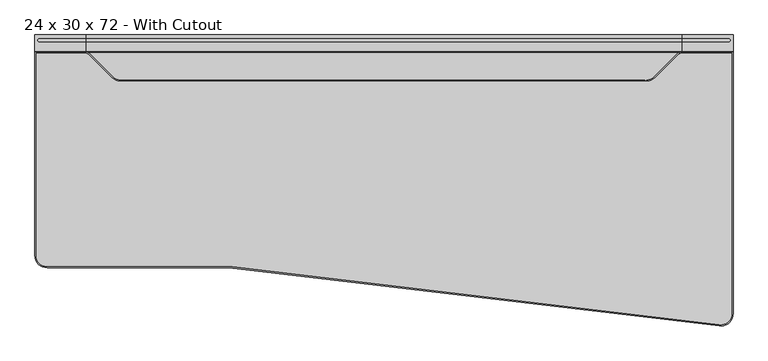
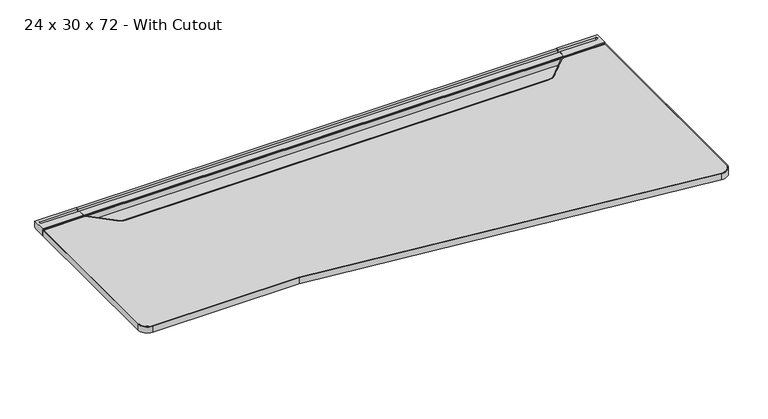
"""IFC4 building model written with IfcOpenShell, lengths in millimetres: furniture geometry, Steelcase - C Scape - Desking - Right Hand Transition - Non Sliding : 24 x 30 x 72 - With Cutout."""

from ifc_helpers import new_model, si_unit, point, frame, frame_2d, origin, place, context, project, spatial, polyline, circle_curve, trimmed, segment, composite_curve, outline, extrude, faceted_brep, source, transform, mapped, element, save
from ifc_brep_helpers import plane_surface, cylinder_surface, revolved_surface, advanced_brep


def furniture_24_x_30_x_72_with_cutout_818d5d7e(model_context):
    return source(origin(), model_context, "Body", "SolidModel", [
        advanced_brep(
        [(1695.7802124, -45.3135132, 703.3768), (1695.7802124, -45.3135132, 722.4268341), (1695.7802124, -42.7750923, 722.4268341), (1695.7802124, -42.7750923, 725.932), (1695.7802124, -19.3290527, 725.932), (1695.7802124, -19.3290527, 713.486), (1695.7802124, -8.5111084, 713.486), (1695.7802124, -8.5111084, 725.932), (1695.7802124, 0.0, 725.932), (1695.7802124, 0.0, 705.1038636), (1695.7802124, -3.2278472, 705.1038636), (1695.7802124, -4.0331902, 703.3768), (1828.8, -45.3135132, 703.3768), (1828.8, -4.0331902, 703.3768), (1828.8, -3.2278472, 705.1038636), (1828.8, 0.0, 705.1038636), (1828.8, 0.0, 725.932), (1828.8, -42.7750923, 725.932), (1828.8, -42.7750923, 722.4268341), (1828.8, -45.3135132, 722.4268341), (1817.0379272, -8.5111084, 725.932), (1817.0379272, -19.3290527, 725.932), (1817.0379272, -19.3290527, 713.486), (1817.0379272, -8.5111084, 713.486)],
        [
            (0, 1),
            (1, 2),
            (2, 3),
            (3, 4),
            (4, 5),
            (5, 6),
            (6, 7),
            (7, 8),
            (8, 9),
            (9, 10),
            (10, 11),
            (11, 0),
            (12, 13),
            (13, 14),
            (14, 15),
            (15, 16),
            (16, 17),
            (17, 18),
            (18, 19),
            (19, 12),
            (11, 13),
            (12, 0),
            (10, 14),
            (9, 15),
            (8, 16),
            (7, 20),
            (20, 21, circle_curve(frame((1817.0379272, -13.9200806, 725.932), z_axis=(0.0, 0.0, -1.0), x_axis=(-1.0, 0.0, 0.0)), 5.4089722)),
            (21, 4),
            (3, 17),
            (2, 18),
            (1, 19),
            (5, 22),
            (22, 23, circle_curve(frame((1817.0379272, -13.9200806, 713.486), z_axis=(0.0, 0.0, 1.0), x_axis=(-1.0, 0.0, 0.0)), 5.4089722)),
            (23, 6),
            (23, 20),
            (22, 21),
        ],
        [
            plane_surface(frame((1695.7802124, -45.3135132, 703.3768), z_axis=(-1.0, 0.0, 0.0), x_axis=(0.0, 1.0, 0.0))),
            plane_surface(frame((1828.8, -45.3135132, 703.3768), z_axis=(1.0, 0.0, 0.0), x_axis=(0.0, -1.0, 0.0))),
            plane_surface(frame((1695.7802124, -45.3135132, 703.3768), z_axis=(0.0, 0.0, -1.0), x_axis=(1.0, 0.0, 0.0))),
            plane_surface(frame((1695.7802124, -4.0331902, 703.3768), z_axis=(0.0, 0.9063077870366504, -0.4226182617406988), x_axis=(1.0, 0.0, 0.0))),
            plane_surface(frame((1695.7802124, -3.2278472, 705.1038636), z_axis=(0.0, 0.0, -1.0), x_axis=(1.0, 0.0, 0.0))),
            plane_surface(frame((1695.7802124, 0.0, 705.1038636), z_axis=(0.0, 1.0, 0.0), x_axis=(1.0, 0.0, 0.0))),
            plane_surface(frame((1695.7802124, 0.0, 725.932), z_axis=(0.0, 0.0, 1.0), x_axis=(1.0, 0.0, 0.0))),
            plane_surface(frame((1695.7802124, -42.7750923, 725.932), z_axis=(0.0, -1.0, 0.0), x_axis=(1.0, 0.0, 0.0))),
            plane_surface(frame((1695.7802124, -42.7750923, 722.4268341), z_axis=(0.0, 0.0, 1.0), x_axis=(1.0, 0.0, 0.0))),
            plane_surface(frame((1695.7802124, -45.3135132, 722.4268341), z_axis=(0.0, -1.0, 0.0), x_axis=(1.0, 0.0, 0.0))),
            plane_surface(frame((1817.0379272, -8.5111084, 713.486), z_axis=(0.0, 0.0, 1.0), x_axis=(-1.0, 0.0, 0.0))),
            plane_surface(frame((1695.7802124, -8.5111084, 731.2180541), z_axis=(0.0, -1.0, 0.0), x_axis=(0.0, 0.0, -1.0))),
            revolved_surface(polyline([(1811.628955, -13.9200806, 725.932), (1811.628955, -13.9200806, 713.486)]), (1817.0379272, -13.9200806, 713.486), (0.0, 0.0, 1.0)),
            plane_surface(frame((1817.0379272, -19.3290527, 731.2180541), z_axis=(0.0, 1.0, 0.0), x_axis=(0.0, 0.0, -1.0))),
        ],
        [
            (0, [[1, 2, 3, 4, 5, 6, 7, 8, 9, 10, 11, 12]]),
            (1, [[13, 14, 15, 16, 17, 18, 19, 20]]),
            (2, [[21, -13, 22, -12]]),
            (3, [[23, -14, -21, -11]]),
            (4, [[24, -15, -23, -10]]),
            (5, [[25, -16, -24, -9]]),
            (6, [[-25, -8, 26, 27, 28, -4, 29, -17]]),
            (7, [[30, -18, -29, -3]]),
            (8, [[31, -19, -30, -2]]),
            (9, [[-22, -20, -31, -1]]),
            (10, [[-6, 32, 33, 34]]),
            (11, [[35, -26, -7, -34]]),
            (12, [[36, -27, -35, -33]]),
            (13, [[-5, -28, -36, -32]]),
        ],
    ),
        faceted_brep([(1809.7492368, -565.0752923, 700.7093833), (1809.7492368, -565.0752923, 703.3768), (1695.7802124, -565.0752923, 703.3768), (1695.7802124, -565.0752923, 679.3263935), (1711.4143699, -565.0752923, 679.3263935), (1714.0349121, -565.0752923, 693.4200291), (1795.4741272, -565.0752923, 693.4200291), (1809.7492368, -4.0331902, 700.7093833), (1795.4741272, -4.0331902, 693.4200291), (1714.0349121, -4.0331902, 693.4200291), (1702.1286653, -4.0331902, 629.3866), (1695.7802124, -4.0331902, 629.3866), (1695.7802124, -4.0331902, 703.3768), (1809.7492368, -4.0331902, 703.3768), (1709.2490949, -376.5599397, 667.6812472), (1702.1286653, -364.1172546, 629.3866), (1695.7802124, -364.1172546, 629.3866), (1695.7802124, -376.5599397, 667.6812472)], [[[0, 1, 2, 3, 4, 5, 6]], [[7, 8, 9, 10, 11, 12, 13]], [[6, 8, 7, 0]], [[5, 9, 8, 6]], [[9, 5, 4, 14, 15, 10]], [[10, 15, 16, 11]], [[11, 16, 17, 3, 2, 12]], [[1, 13, 12, 2]], [[0, 7, 13, 1]], [[14, 4, 3, 17]], [[17, 16, 15, 14]]]),
        extrude(outline(composite_curve([segment(polyline([(-293.5216187, 657.3775839), (-559.0022133, 680.1371551)]), True, "CONTINUOUS"), segment(trimmed(circle_curve(frame_2d((-558.7581271, 682.9843154)), 2.8576039), [point((-559.0022133, 680.1371551))], [point((-561.5383043, 682.3236226))], False, "CARTESIAN"), True, "CONTINUOUS"), segment(polyline([(-561.5383043, 682.3236226), (-566.0887542, 701.4717905), (-557.8334441, 701.4717905), (-557.8334441, 703.3768), (-442.6683806, 703.3768), (-442.6683806, 696.3917953), (-318.2108611, 696.3917953), (-318.2108611, 703.3768), (-293.5216187, 703.3768), (-293.5216187, 657.3775839)]), True, "CONTINUOUS")], self_intersect=False)), frame((877.824, 0.0, 0.0), z_axis=(1.0, 0.0, 0.0), x_axis=(0.0, 1.0, 0.0)), (0.0, 0.0, 1.0), 73.152),
        advanced_brep(
        [(133.0197876, -45.3135132, 703.3768), (133.0197876, -4.0331902, 703.3768), (133.0197876, -3.2278472, 705.1038636), (133.0197876, 0.0, 705.1038636), (133.0197876, 0.0, 725.932), (133.0197876, -8.5111084, 725.932), (133.0197876, -8.5111084, 713.486), (133.0197876, -19.3290527, 713.486), (133.0197876, -19.3290527, 725.932), (133.0197876, -42.7750923, 725.932), (133.0197876, -42.7750923, 722.4268341), (133.0197876, -45.3135132, 722.4268341), (0.0, -45.3135132, 703.3768), (0.0, -45.3135132, 722.4268341), (0.0, -42.7750923, 722.4268341), (0.0, -42.7750923, 725.932), (0.0, 0.0, 725.932), (0.0, 0.0, 705.1038636), (0.0, -3.2278472, 705.1038636), (0.0, -4.0331902, 703.3768), (11.7620728, -19.3290527, 725.932), (11.7620728, -8.5111084, 725.932), (11.7620728, -8.5111084, 713.486), (11.7620728, -19.3290527, 713.486)],
        [
            (0, 1),
            (1, 2),
            (2, 3),
            (3, 4),
            (4, 5),
            (5, 6),
            (6, 7),
            (7, 8),
            (8, 9),
            (9, 10),
            (10, 11),
            (11, 0),
            (12, 13),
            (13, 14),
            (14, 15),
            (15, 16),
            (16, 17),
            (17, 18),
            (18, 19),
            (19, 12),
            (0, 12),
            (19, 1),
            (18, 2),
            (17, 3),
            (16, 4),
            (15, 9),
            (8, 20),
            (20, 21, circle_curve(frame((11.7620728, -13.9200806, 725.932), z_axis=(0.0, 0.0, -1.0), x_axis=(1.0, 0.0, 0.0)), 5.4089722)),
            (21, 5),
            (14, 10),
            (13, 11),
            (6, 22),
            (22, 23, circle_curve(frame((11.7620728, -13.9200806, 713.486), z_axis=(0.0, 0.0, 1.0), x_axis=(1.0, 0.0, 0.0)), 5.4089722)),
            (23, 7),
            (21, 22),
            (20, 23),
        ],
        [
            plane_surface(frame((133.0197876, -45.3135132, 703.3768), z_axis=(1.0, 0.0, 0.0), x_axis=(0.0, 1.0, 0.0))),
            plane_surface(frame((0.0, -45.3135132, 703.3768), z_axis=(-1.0, 0.0, 0.0), x_axis=(0.0, -1.0, 0.0))),
            plane_surface(frame((133.0197876, -45.3135132, 703.3768), z_axis=(0.0, 0.0, -1.0), x_axis=(-1.0, 0.0, 0.0))),
            plane_surface(frame((133.0197876, -4.0331902, 703.3768), z_axis=(0.0, 0.9063077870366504, -0.4226182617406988), x_axis=(-1.0, 0.0, 0.0))),
            plane_surface(frame((133.0197876, -3.2278472, 705.1038636), z_axis=(0.0, 0.0, -1.0), x_axis=(-1.0, 0.0, 0.0))),
            plane_surface(frame((133.0197876, 0.0, 705.1038636), z_axis=(0.0, 1.0, 0.0), x_axis=(-1.0, 0.0, 0.0))),
            plane_surface(frame((133.0197876, 0.0, 725.932), z_axis=(0.0, 0.0, 1.0), x_axis=(-1.0, 0.0, 0.0))),
            plane_surface(frame((133.0197876, -42.7750923, 725.932), z_axis=(0.0, -1.0, 0.0), x_axis=(-1.0, 0.0, 0.0))),
            plane_surface(frame((133.0197876, -42.7750923, 722.4268341), z_axis=(0.0, 0.0, 1.0), x_axis=(-1.0, 0.0, 0.0))),
            plane_surface(frame((133.0197876, -45.3135132, 722.4268341), z_axis=(0.0, -1.0, 0.0), x_axis=(-1.0, 0.0, 0.0))),
            plane_surface(frame((11.7620728, -8.5111084, 713.486), z_axis=(0.0, 0.0, 1.0), x_axis=(1.0, 0.0, 0.0))),
            plane_surface(frame((133.0197876, -8.5111084, 731.2180541), z_axis=(0.0, -1.0, 0.0), x_axis=(0.0, 0.0, -1.0))),
            revolved_surface(polyline([(17.171045, -13.9200806, 725.932), (17.171045, -13.9200806, 713.486)]), (11.7620728, -13.9200806, 713.486), (0.0, 0.0, 1.0)),
            plane_surface(frame((11.7620728, -19.3290527, 731.2180541), z_axis=(0.0, 1.0, 0.0), x_axis=(0.0, 0.0, -1.0))),
        ],
        [
            (0, [[1, 2, 3, 4, 5, 6, 7, 8, 9, 10, 11, 12]]),
            (1, [[13, 14, 15, 16, 17, 18, 19, 20]]),
            (2, [[-1, 21, -20, 22]]),
            (3, [[-2, -22, -19, 23]]),
            (4, [[-3, -23, -18, 24]]),
            (5, [[-4, -24, -17, 25]]),
            (6, [[-16, 26, -9, 27, 28, 29, -5, -25]]),
            (7, [[-10, -26, -15, 30]]),
            (8, [[-11, -30, -14, 31]]),
            (9, [[-12, -31, -13, -21]]),
            (10, [[32, 33, 34, -7]]),
            (11, [[-32, -6, -29, 35]]),
            (12, [[-33, -35, -28, 36]]),
            (13, [[-34, -36, -27, -8]]),
        ],
    ),
        faceted_brep([(19.0507632, -565.0752923, 700.7093833), (33.3258728, -565.0752923, 693.4200291), (114.7650879, -565.0752923, 693.4200291), (117.3856301, -565.0752923, 679.3263935), (133.0197876, -565.0752923, 679.3263935), (133.0197876, -565.0752923, 703.3768), (19.0507632, -565.0752923, 703.3768), (19.0507632, -4.0331902, 700.7093833), (19.0507632, -4.0331902, 703.3768), (133.0197876, -4.0331902, 703.3768), (133.0197876, -4.0331902, 629.3866), (126.6713347, -4.0331902, 629.3866), (114.7650879, -4.0331902, 693.4200291), (33.3258728, -4.0331902, 693.4200291), (126.6713347, -364.1172546, 629.3866), (119.5509051, -376.5599397, 667.6812472), (133.0197876, -364.1172546, 629.3866), (133.0197876, -376.5599397, 667.6812472)], [[[0, 1, 2, 3, 4, 5, 6]], [[7, 8, 9, 10, 11, 12, 13]], [[1, 0, 7, 13]], [[2, 1, 13, 12]], [[12, 11, 14, 15, 3, 2]], [[11, 10, 16, 14]], [[10, 9, 5, 4, 17, 16]], [[6, 5, 9, 8]], [[0, 6, 8, 7]], [[15, 17, 4, 3]], [[17, 15, 14, 16]]]),
        extrude(outline(polyline([(-8.5111084, 725.932), (0.0, 725.932), (0.0, 705.1038636), (-3.2278472, 705.1038636), (-4.0331902, 703.3768), (-45.3135132, 703.3768), (-45.3135132, 722.4268341), (-42.7750923, 722.4268341), (-42.7750923, 725.932), (-19.3290527, 725.932), (-19.3290527, 713.486), (-8.5111084, 713.486), (-8.5111084, 725.932)])), frame((133.6675, 0.0, 0.0), z_axis=(1.0, 0.0, 0.0), x_axis=(0.0, 1.0, 0.0)), (0.0, 0.0, 1.0), 1560.5252124),
        extrude(outline(polyline([(133.6675, -293.5216187), (133.6675, -4.0331902), (1694.1927124, -4.0331902), (1694.1927124, -293.5216187), (133.6675, -293.5216187)])), frame((0.0, 0.0, 629.3866), z_axis=(0.0, 0.0, 1.0), x_axis=(1.0, 0.0, 0.0)), (0.0, 0.0, 1.0), 73.9902),
        extrude(outline(composite_curve([segment(polyline([(508.0002405, -606.5490234), (31.8007993, -606.5490234)]), True, "CONTINUOUS"), segment(trimmed(circle_curve(frame_2d((31.8007993, -577.7962241)), 28.7527993), [point((31.8007993, -606.5490234))], [point((3.048, -577.7962241))], False, "CARTESIAN"), True, "CONTINUOUS"), segment(polyline([(3.048, -577.7962241), (3.048, -48.3660689), (131.6700001, -48.3660689)]), True, "CONTINUOUS"), segment(trimmed(circle_curve(frame_2d((131.6700001, -63.6060689)), 15.24), [point((131.6700001, -48.3660689))], [point((142.4463079, -52.8297619))], False, "CARTESIAN"), True, "CONTINUOUS"), segment(polyline([(142.4463079, -52.8297619), (199.9201078, -110.303566)]), True, "CONTINUOUS"), segment(trimmed(circle_curve(frame_2d((226.8608771, -83.3627986)), 38.1), [point((199.9201078, -110.303566))], [point((226.8608771, -121.4627986))], True, "CARTESIAN"), True, "CONTINUOUS"), segment(polyline([(226.8608771, -121.4627986), (1599.4835261, -121.4627986)]), True, "CONTINUOUS"), segment(trimmed(circle_curve(frame_2d((1599.4835261, -83.3627986)), 38.1), [point((1599.4835261, -121.4627986))], [point((1626.4242945, -110.303567))], True, "CARTESIAN"), True, "CONTINUOUS"), segment(polyline([(1626.4242945, -110.303567), (1683.9588568, -52.7690046)]), True, "CONTINUOUS"), segment(trimmed(circle_curve(frame_2d((1694.588484, -63.3986318)), 15.0325629), [point((1683.9588568, -52.7690046))], [point((1694.588484, -48.3660689))], False, "CARTESIAN"), True, "CONTINUOUS"), segment(polyline([(1694.588484, -48.3660689), (1825.752, -48.3660689), (1825.752, -730.055403)]), True, "CONTINUOUS"), segment(trimmed(circle_curve(frame_2d((1796.2234075, -730.055403)), 29.5285925), [point((1825.752, -730.055403))], [point((1793.1008291, -759.4184287))], False, "CARTESIAN"), True, "CONTINUOUS"), segment(polyline([(1793.1008291, -759.4184287), (508.0002405, -606.5490234)]), True, "CONTINUOUS")], self_intersect=False)), frame((0.0, 0.0, 703.3768), z_axis=(0.0, 0.0, 1.0), x_axis=(1.0, 0.0, 0.0)), (0.0, 0.0, 1.0), 20.5232),
        advanced_brep(
        [(1597.6564053, -118.4118221, 723.9), (1597.6564053, -121.4627986, 723.9), (1597.6564053, -121.4627986, 703.3768), (1597.6564053, -118.4118221, 703.3768), (223.9255059, -121.4627986, 723.9), (223.9255059, -121.4627986, 703.3768), (223.9255059, -118.4118221, 703.3768), (223.9255059, -118.4118221, 723.9), (201.9957286, -112.379187, 703.3768), (201.9957286, -112.379187, 723.9), (204.1530949, -110.2218209, 723.9), (204.1530949, -110.2218209, 703.3768), (142.3719136, -52.7553676, 723.9), (142.3719136, -52.7553676, 703.3768), (144.5292799, -50.5980015, 703.3768), (144.5292799, -50.5980015, 723.9), (133.2679227, -48.3660689, 703.3768), (133.2679227, -48.3660689, 723.9), (133.4327798, -45.3150923, 723.9), (133.4327798, -45.3150923, 703.3768), (3.048, -48.3660689, 723.9), (3.048, -48.3660689, 703.3768), (-0.0029766, -45.3150923, 703.3768), (-0.0029766, -45.3150923, 723.9), (3.048, -577.7962241, 723.9), (3.048, -577.7962241, 703.3768), (-0.0029766, -577.7962241, 703.3768), (-0.0029766, -577.7962241, 723.9), (31.8007993, -606.5490234, 703.3768), (31.8007993, -606.5490234, 723.9), (31.8007993, -609.6, 723.9), (31.8007993, -609.6, 703.3768), (508.0002405, -606.5490234, 723.9), (508.0002405, -606.5490234, 703.3768), (507.8194132, -609.6, 703.3768), (507.8194132, -609.6, 723.9), (1793.1008291, -759.4184287, 723.9), (1793.1008291, -759.4184287, 703.3768), (1792.7404404, -762.4480455, 703.3768), (1792.7404404, -762.4480455, 723.9), (1825.752, -730.055403, 723.9), (1828.8029766, -730.055403, 723.9), (1828.8029766, -45.3150923, 723.9), (1693.4053399, -45.3150923, 723.9), (1685.317872, -47.0952981, 723.9), (1622.1912931, -110.2218359, 723.9), (1602.4189084, -118.4118221, 723.9), (1602.4189084, -121.4627986, 723.9), (1624.3486586, -112.3792028, 723.9), (1687.0743869, -49.6535154, 723.9), (1693.4053399, -48.3660689, 723.9), (1825.752, -48.3660689, 723.9), (1825.752, -730.055403, 703.3768), (1828.8029766, -730.055403, 703.3768), (1825.752, -48.3660689, 703.3768), (1693.4053399, -48.3660689, 703.3768), (1687.0743869, -49.6535154, 703.3768), (1624.3486586, -112.3792028, 703.3768), (1602.4189084, -121.4627986, 703.3768), (1602.4189084, -118.4118221, 703.3768), (1622.1912931, -110.2218359, 703.3768), (1685.317872, -47.0952981, 703.3768), (1693.4053399, -45.3150923, 703.3768), (1828.8029766, -45.3150923, 703.3768)],
        [
            (0, 1),
            (1, 2),
            (2, 3),
            (3, 0),
            (1, 4),
            (4, 5),
            (5, 2),
            (3, 6),
            (6, 7),
            (7, 0),
            (8, 5, circle_curve(frame((223.9255059, -90.4494114, 703.3768), z_axis=(0.0, 0.0, 1.0), x_axis=(0.0, -1.0, 0.0)), 31.0133872)),
            (4, 9, circle_curve(frame((223.9255059, -90.4494114, 723.9), z_axis=(0.0, 0.0, -1.0), x_axis=(0.0, -1.0, 0.0)), 31.0133872)),
            (9, 8),
            (10, 7, circle_curve(frame((223.9255059, -90.4494114, 723.9), z_axis=(0.0, 0.0, 1.0), x_axis=(0.0, -1.0, 0.0)), 27.9624107)),
            (6, 11, circle_curve(frame((223.9255059, -90.4494114, 703.3768), z_axis=(0.0, 0.0, -1.0), x_axis=(0.0, -1.0, 0.0)), 27.9624107)),
            (11, 10),
            (9, 12),
            (12, 13),
            (13, 8),
            (11, 14),
            (14, 15),
            (15, 10),
            (16, 13, circle_curve(frame((131.5389064, -63.588374, 703.3768), z_axis=(0.0, 0.0, -1.0), x_axis=(0.7071068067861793, 0.7071067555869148, 0.0)), 15.3201851)),
            (12, 17, circle_curve(frame((131.5389064, -63.588374, 723.9), z_axis=(0.0, 0.0, 1.0), x_axis=(0.7071068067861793, 0.7071067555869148, 0.0)), 15.3201851)),
            (17, 16),
            (18, 15, circle_curve(frame((131.5389064, -63.588374, 723.9), z_axis=(0.0, 0.0, -1.0), x_axis=(0.7071068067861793, 0.7071067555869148, 0.0)), 18.3711616)),
            (14, 19, circle_curve(frame((131.5389064, -63.588374, 703.3768), z_axis=(0.0, 0.0, 1.0), x_axis=(0.7071068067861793, 0.7071067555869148, 0.0)), 18.3711616)),
            (19, 18),
            (17, 20),
            (20, 21),
            (21, 16),
            (19, 22),
            (22, 23),
            (23, 18),
            (20, 24),
            (24, 25),
            (25, 21),
            (22, 26),
            (26, 27),
            (27, 23),
            (28, 25, circle_curve(frame((31.8007993, -577.7962241, 703.3768), z_axis=(0.0, 0.0, -1.0), x_axis=(-1.0, 0.0, 0.0)), 28.7527993)),
            (24, 29, circle_curve(frame((31.8007993, -577.7962241, 723.9), z_axis=(0.0, 0.0, 1.0), x_axis=(-1.0, 0.0, 0.0)), 28.7527993)),
            (29, 28),
            (30, 27, circle_curve(frame((31.8007993, -577.7962241, 723.9), z_axis=(0.0, 0.0, -1.0), x_axis=(-1.0, 0.0, 0.0)), 31.8037759)),
            (26, 31, circle_curve(frame((31.8007993, -577.7962241, 703.3768), z_axis=(0.0, 0.0, 1.0), x_axis=(-1.0, 0.0, 0.0)), 31.8037759)),
            (31, 30),
            (29, 32),
            (32, 33),
            (33, 28),
            (31, 34),
            (34, 35),
            (35, 30),
            (32, 36),
            (36, 37),
            (37, 33),
            (34, 38),
            (38, 39),
            (39, 35),
            (40, 36, circle_curve(frame((1796.2234075, -730.055403, 723.9), z_axis=(0.0, 0.0, -1.0), x_axis=(-0.10574762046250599, -0.9943930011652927, 0.0)), 29.5285925)),
            (39, 41, circle_curve(frame((1796.2234075, -730.055403, 723.9), z_axis=(0.0, 0.0, 1.0), x_axis=(-0.10574762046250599, -0.9943930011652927, 0.0)), 32.5795691)),
            (41, 42),
            (42, 43),
            (43, 44, circle_curve(frame((1693.4053399, -64.5758622, 723.9), z_axis=(0.0, 0.0, 1.0), x_axis=(0.0, 1.0, 0.0)), 19.2607699)),
            (44, 45),
            (45, 46, circle_curve(frame((1602.4189084, -90.4494383, 723.9), z_axis=(0.0, 0.0, -1.0), x_axis=(0.7071065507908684, -0.7071070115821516, 0.0)), 27.9623838)),
            (46, 47),
            (47, 48, circle_curve(frame((1602.4189084, -90.4494383, 723.9), z_axis=(0.0, 0.0, 1.0), x_axis=(0.7071065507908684, -0.7071070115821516, 0.0)), 31.0133604)),
            (48, 49),
            (49, 50, circle_curve(frame((1693.4053399, -64.5758622, 723.9), z_axis=(0.0, 0.0, -1.0), x_axis=(0.0, 1.0, 0.0)), 16.2097933)),
            (50, 51),
            (51, 40),
            (52, 37, circle_curve(frame((1796.2234075, -730.055403, 703.3768), z_axis=(0.0, 0.0, -1.0), x_axis=(-0.10574762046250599, -0.9943930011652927, 0.0)), 29.5285925)),
            (40, 52),
            (53, 38, circle_curve(frame((1796.2234075, -730.055403, 703.3768), z_axis=(0.0, 0.0, -1.0), x_axis=(-0.10574762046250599, -0.9943930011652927, 0.0)), 32.5795691)),
            (52, 54),
            (54, 55),
            (55, 56, circle_curve(frame((1693.4053399, -64.5758622, 703.3768), z_axis=(0.0, 0.0, 1.0), x_axis=(0.0, 1.0, 0.0)), 16.2097933)),
            (56, 57),
            (57, 58, circle_curve(frame((1602.4189084, -90.4494383, 703.3768), z_axis=(0.0, 0.0, -1.0), x_axis=(0.7071065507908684, -0.7071070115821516, 0.0)), 31.0133604)),
            (58, 59),
            (59, 60, circle_curve(frame((1602.4189084, -90.4494383, 703.3768), z_axis=(0.0, 0.0, 1.0), x_axis=(0.7071065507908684, -0.7071070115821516, 0.0)), 27.9623838)),
            (60, 61),
            (61, 62, circle_curve(frame((1693.4053399, -64.5758622, 703.3768), z_axis=(0.0, 0.0, -1.0), x_axis=(0.0, 1.0, 0.0)), 19.2607699)),
            (62, 63),
            (63, 53),
            (53, 41),
            (51, 54),
            (63, 42),
            (50, 55),
            (62, 43),
            (49, 56),
            (61, 44),
            (48, 57),
            (60, 45),
            (46, 59),
            (58, 47),
        ],
        [
            plane_surface(frame((1597.6564053, -121.4627986, 0.0), z_axis=(1.0, 0.0, 0.0), x_axis=(0.0, 0.0, 1.0))),
            plane_surface(frame((1597.6564053, -121.4627986, 723.9), z_axis=(0.0, -1.0, 0.0), x_axis=(-1.0, 0.0, 0.0))),
            plane_surface(frame((1597.6564053, -118.4118221, 703.3768), z_axis=(0.0, 1.0, 0.0), x_axis=(-1.0, 0.0, 0.0))),
            cylinder_surface(frame((223.9255059, -90.4494114, 0.0), z_axis=(0.0, 0.0, -1.0), x_axis=(0.0, -1.0, 0.0)), 31.0133872),
            revolved_surface(polyline([(223.9255059, -118.4118221, 703.3768), (223.9255059, -118.4118221, 723.9)]), (223.9255059, -90.4494114, 0.0), (0.0, 0.0, -1.0)),
            plane_surface(frame((201.9957286, -112.379187, 723.9), z_axis=(-0.707106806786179, -0.7071067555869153, 0.0), x_axis=(-0.7071067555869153, 0.707106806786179, 0.0))),
            plane_surface(frame((204.1530949, -110.2218209, 703.3768), z_axis=(0.7071068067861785, 0.7071067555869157, 0.0), x_axis=(-0.7071067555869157, 0.7071068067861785, 0.0))),
            revolved_surface(polyline([(142.3719135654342, -52.75536761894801, 723.9), (142.3719135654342, -52.75536761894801, 703.3768)]), (131.5389064, -63.588374, 0.0), (0.0, 0.0, 1.0)),
            cylinder_surface(frame((131.5389064, -63.588374, 0.0), z_axis=(0.0, 0.0, 1.0), x_axis=(0.7071068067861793, 0.7071067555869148, 0.0)), 18.3711616),
            plane_surface(frame((133.2679227, -48.3660689, 723.9), z_axis=(0.0, -1.0, 0.0), x_axis=(-1.0, 0.0, 0.0))),
            plane_surface(frame((133.4327798, -45.3150923, 703.3768), z_axis=(0.0, 1.0, 0.0), x_axis=(-1.0, 0.0, 0.0))),
            plane_surface(frame((3.048, -48.3660689, 723.9), z_axis=(1.0, 0.0, 0.0), x_axis=(0.0, -1.0, 0.0))),
            plane_surface(frame((-0.0029766, -45.3150923, 703.3768), z_axis=(-1.0, 0.0, 0.0), x_axis=(0.0, -1.0, 0.0))),
            revolved_surface(polyline([(3.048000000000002, -577.7962241, 723.9), (3.048000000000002, -577.7962241, 703.3768)]), (31.8007993, -577.7962241, 0.0), (0.0, 0.0, 1.0)),
            cylinder_surface(frame((31.8007993, -577.7962241, 0.0), z_axis=(0.0, 0.0, 1.0), x_axis=(-1.0, 0.0, 0.0)), 31.8037759),
            plane_surface(frame((31.8007993, -606.5490234, 723.9), z_axis=(0.0, 1.0, 0.0), x_axis=(1.0, 0.0, 0.0))),
            plane_surface(frame((31.8007993, -609.6, 703.3768), z_axis=(0.0, -1.0, 0.0), x_axis=(1.0, 0.0, 0.0))),
            plane_surface(frame((508.0002405, -606.5490234, 723.9), z_axis=(0.11812240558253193, 0.992999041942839, 0.0), x_axis=(0.992999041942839, -0.11812240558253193, 0.0))),
            plane_surface(frame((507.8194132, -609.6, 703.3768), z_axis=(-0.1181224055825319, -0.992999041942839, 0.0), x_axis=(0.992999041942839, -0.1181224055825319, 0.0))),
            plane_surface(frame((1796.2234075, -730.055403, 723.9), z_axis=(0.0, 0.0, 1.0000000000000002), x_axis=(-0.10574762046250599, -0.9943930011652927, 0.0))),
            revolved_surface(polyline([(1793.100829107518, -759.4184287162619, 723.9), (1793.100829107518, -759.4184287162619, 703.3768)]), (1796.2234075, -730.055403, 0.0), (0.0, 0.0, 1.0)),
            plane_surface(frame((1796.2234075, -730.055403, 703.3768), z_axis=(0.0, 0.0, -1.0000000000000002), x_axis=(-0.10574762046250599, -0.9943930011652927, 0.0))),
            cylinder_surface(frame((1796.2234075, -730.055403, 0.0), z_axis=(0.0, 0.0, 1.0), x_axis=(-0.10574762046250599, -0.9943930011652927, 0.0)), 32.5795691),
            plane_surface(frame((1825.752, -730.055403, 723.9), z_axis=(-1.0, 0.0, 0.0), x_axis=(0.0, 1.0, 0.0))),
            plane_surface(frame((1828.8029766, -730.055403, 703.3768), z_axis=(1.0, 0.0, 0.0), x_axis=(0.0, 1.0, 0.0))),
            plane_surface(frame((1825.752, -48.3660689, 723.9), z_axis=(0.0, -1.0, 0.0), x_axis=(-1.0, 0.0, 0.0))),
            plane_surface(frame((1828.8029766, -45.3150923, 703.3768), z_axis=(0.0, 1.0, 0.0), x_axis=(-1.0, 0.0, 0.0))),
            revolved_surface(polyline([(1693.4053399, -48.3660689, 723.9), (1693.4053399, -48.3660689, 703.3768)]), (1693.4053399, -64.5758622, 0.0), (0.0, 0.0, 1.0)),
            cylinder_surface(frame((1693.4053399, -64.5758622, 0.0), z_axis=(0.0, 0.0, 1.0), x_axis=(0.0, 1.0, 0.0)), 19.2607699),
            plane_surface(frame((1687.0743869, -49.6535154, 723.9), z_axis=(0.7071065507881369, -0.7071070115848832, 0.0), x_axis=(-0.7071070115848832, -0.7071065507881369, 0.0))),
            plane_surface(frame((1685.317872, -47.0952981, 703.3768), z_axis=(-0.7071065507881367, 0.7071070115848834, 0.0), x_axis=(-0.7071070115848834, -0.7071065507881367, 0.0))),
            plane_surface(frame((1602.4189084, -121.4627986, 0.0), z_axis=(-1.0, 0.0, 0.0), x_axis=(0.0, 0.0, 1.0))),
            cylinder_surface(frame((1602.4189084, -90.4494383, 0.0), z_axis=(0.0, 0.0, -1.0), x_axis=(0.7071065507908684, -0.7071070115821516, 0.0)), 31.0133604),
            revolved_surface(polyline([(1622.1912931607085, -110.22183594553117, 703.3768), (1622.1912931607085, -110.22183594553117, 723.9)]), (1602.4189084, -90.4494383, 0.0), (0.0, 0.0, -1.0)),
        ],
        [
            (0, [[1, 2, 3, 4]]),
            (1, [[-2, 5, 6, 7]]),
            (2, [[-4, 8, 9, 10]]),
            (3, [[11, -6, 12, 13]]),
            (4, [[14, -9, 15, 16]]),
            (5, [[-13, 17, 18, 19]]),
            (6, [[-16, 20, 21, 22]]),
            (7, [[23, -18, 24, 25]]),
            (8, [[26, -21, 27, 28]]),
            (9, [[-25, 29, 30, 31]]),
            (10, [[-28, 32, 33, 34]]),
            (11, [[-30, 35, 36, 37]]),
            (12, [[-33, 38, 39, 40]]),
            (13, [[41, -36, 42, 43]]),
            (14, [[44, -39, 45, 46]]),
            (15, [[-43, 47, 48, 49]]),
            (16, [[-46, 50, 51, 52]]),
            (17, [[-48, 53, 54, 55]]),
            (18, [[-51, 56, 57, 58]]),
            (19, [[59, -53, -47, -42, -35, -29, -24, -17, -12, -5, -1, -10, -14, -22, -26, -34, -40, -44, -52, -58, 60, 61, 62, 63, 64, 65, 66, 67, 68, 69, 70, 71]]),
            (20, [[72, -54, -59, 73]]),
            (21, [[74, -56, -50, -45, -38, -32, -27, -20, -15, -8, -3, -7, -11, -19, -23, -31, -37, -41, -49, -55, -72, 75, 76, 77, 78, 79, 80, 81, 82, 83, 84, 85]]),
            (22, [[-60, -57, -74, 86]]),
            (23, [[-73, -71, 87, -75]]),
            (24, [[-86, -85, 88, -61]]),
            (25, [[-87, -70, 89, -76]]),
            (26, [[-88, -84, 90, -62]]),
            (27, [[-77, -89, -69, 91]]),
            (28, [[-63, -90, -83, 92]]),
            (29, [[-91, -68, 93, -78]]),
            (30, [[-92, -82, 94, -64]]),
            (31, [[95, -80, 96, -66]]),
            (32, [[-79, -93, -67, -96]]),
            (33, [[-65, -94, -81, -95]]),
        ],
    ),
    ])


if __name__ == "__main__":
    model = new_model("IFC4")
    model_context = context("Model", 3, world=origin())
    ifc_project = project(units=[si_unit("LENGTHUNIT", "METRE", prefix="MILLI")], contexts=[model_context])
    site = spatial("IfcSite", under=ifc_project)
    building = spatial("IfcBuilding", under=site)
    placement = place(None, origin())
    furniture_24_x_30_x_72_with_cutout_shape = furniture_24_x_30_x_72_with_cutout_818d5d7e(model_context)
    element("IfcFurniture", 1, ObjectType="Steelcase - C Scape - Desking - Right Hand Transition - Non Sliding : 24 x 30 x 72 - With Cutout", at=placement, inside=building, context=model_context, shape_type="MappedRepresentation", body=[
        mapped(furniture_24_x_30_x_72_with_cutout_shape, transform((0.0, 0.0, 0.0), x_axis=(1.0, 0.0, 0.0), y_axis=(0.0, 1.0, 0.0), z_axis=(0.0, 0.0, 1.0))),
    ])
    save(model, "model.ifc")
